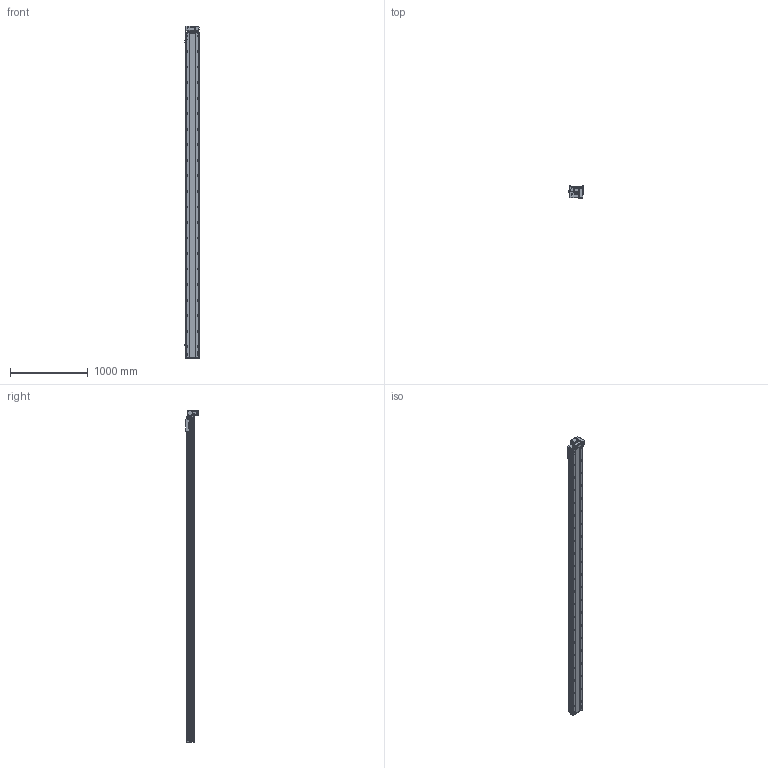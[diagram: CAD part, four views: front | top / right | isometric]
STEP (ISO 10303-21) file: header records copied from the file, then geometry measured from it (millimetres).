
FILE_DESCRIPTION (( 'STEP AP214' ), '1' );
FILE_NAME ('RTB17S-XX-3900-RM-M40-C4.STEP', '2025-12-11T08:42:01', ( '' ), ( '' ), 'SwSTEP 2.0', 'SolidWorks 2018', '' );
FILE_SCHEMA (( 'AUTOMOTIVE_DESIGN' ));
Length unit declared in the file: millimetre
Products named in the file (14): RTH13-BL-012覜茼え俋离^RTB17S-XX-XX-RM-M40-C4; RTB14-L-018P^RTB17S-RM-々湍釱蚾饜-400W_RTB17S-XX-XX-RM-M40-C4; RTB17S-L-014-T20--々湍釱^RTB17S-RM-々湍釱蚾饜-400W_RTB17S-XX-XX-RM-M40-C4; RTB14-L-005P--轴承塑胶压盖^RTB17S-RM-皮带座装配-400W_RTB17S-XX-XX-RM-M40-C4; RTB17S-XX-3900-RM-M40-C4; OMRON EE-SX672 传感器^RTB17S-XX-XX-RM-M40-C4; RTB17S-L-007奻裔^RTB17S-XX-XX-RM-M40-C4; RTB14-L-008-M20--萇儂啣^RTB17S-RM-々湍釱蚾饜-400W_RTB17S-XX-XX-RM-M40-C4; RTB17S-L-004佪裝蹟譫蟀諉釱^RTB17S-XX-XX-RM-M40-C4; 400W侜督萇儂^RTB17S-XX-XX-RM-M40-C4; RTB17S-L-001耜醱啣^RTB17S-XX-XX-RM-M40-C4; RTB14-L-017P^RTB17S-RM-々湍釱蚾饜-400W_RTB17S-XX-XX-RM-M40-C4; RTB17S-RM-々湍釱蚾饜-400W^RTB17S-XX-XX-RM-M40-C4; RTB17-R-011菁釱^RTB17S-XX-XX-RM-M40-C4
Assembly tree (16 placements, depth 3):
  RTB17S-XX-3900-RM-M40-C4
    RTB17-R-011菁釱^RTB17S-XX-XX-RM-M40-C4
    RTB17S-L-007奻裔^RTB17S-XX-XX-RM-M40-C4
    OMRON EE-SX672 传感器^RTB17S-XX-XX-RM-M40-C4  x3
    RTB17S-L-001耜醱啣^RTB17S-XX-XX-RM-M40-C4
    400W侜督萇儂^RTB17S-XX-XX-RM-M40-C4
    RTB17S-L-004佪裝蹟譫蟀諉釱^RTB17S-XX-XX-RM-M40-C4
    RTH13-BL-012覜茼え俋离^RTB17S-XX-XX-RM-M40-C4
    RTB17S-RM-々湍釱蚾饜-400W^RTB17S-XX-XX-RM-M40-C4
      RTB17S-L-014-T20--々湍釱^RTB17S-RM-々湍釱蚾饜-400W_RTB17S-XX-XX-RM-M40-C4
      RTB14-L-005P--轴承塑胶压盖^RTB17S-RM-皮带座装配-400W_RTB17S-XX-XX-RM-M40-C4
      RTB14-L-008-M20--萇儂啣^RTB17S-RM-々湍釱蚾饜-400W_RTB17S-XX-XX-RM-M40-C4
      RTB14-L-017P^RTB17S-RM-々湍釱蚾饜-400W_RTB17S-XX-XX-RM-M40-C4  x2
      RTB14-L-018P^RTB17S-RM-々湍釱蚾饜-400W_RTB17S-XX-XX-RM-M40-C4
Bounding box: 183.5 x 156.5 x 4272.5 mm (x, y, z)
Volume: 36020967.6 mm3; surface area: 4077909.2 mm2
Topology: 15 solids, 15 shells, 2445 faces, 6897 edges, 4509 vertices
Faces by surface type: plane 1098, cylinder 899, bspline 301, cone 139, torus 8
Entity records: 74153 total; most frequent: CARTESIAN_POINT 21302, ORIENTED_EDGE 10638, DIRECTION 9746, EDGE_CURVE 5319, VERTEX_POINT 3497, AXIS2_PLACEMENT_3D 3427, VECTOR 2892, LINE 2892
